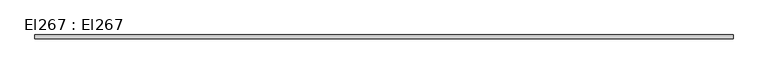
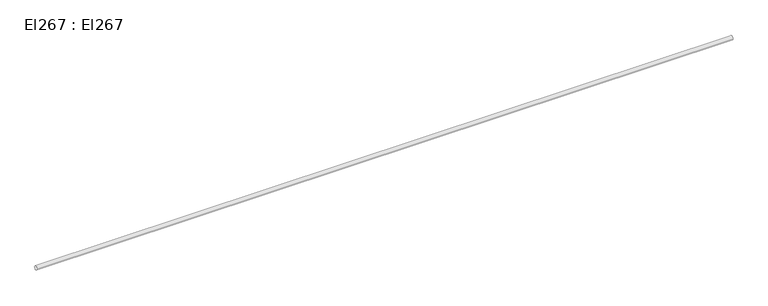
"""IFC4 building model written with IfcOpenShell, lengths in millimetres: cable carrier segment geometry, El267 : El267."""

from ifc_helpers import new_model, si_unit, point, frame, frame_2d, origin, place, context, project, spatial, circle_curve, trimmed, segment, composite_curve, outline, extrude, source, transform, mapped, element, save


def el267_el267_f19b0b8b(model_context):
    return source(origin(), model_context, "Body", "SweptSolid", [
        extrude(outline(composite_curve([segment(trimmed(circle_curve(frame_2d((28672.1, 2950.0)), 9.5), [point((28662.6, 2950.0))], [point((28681.6, 2950.0))], False, "CARTESIAN"), True, "CONTINUOUS"), segment(trimmed(circle_curve(frame_2d((28672.1, 2950.0)), 9.5), [point((28681.6, 2950.0))], [point((28662.6, 2950.0))], False, "CARTESIAN"), True, "CONTINUOUS")], self_intersect=False)), frame((9644.85, 0.0, 0.0), z_axis=(1.0, 0.0, 0.0), x_axis=(0.0, 1.0, 0.0)), (0.0, 0.0, 1.0), 3257.5),
    ])


if __name__ == "__main__":
    model = new_model("IFC4")
    model_context = context("Model", 3, world=origin())
    ifc_project = project(units=[si_unit("LENGTHUNIT", "METRE", prefix="MILLI")], contexts=[model_context])
    site = spatial("IfcSite", under=ifc_project)
    building = spatial("IfcBuilding", under=site)
    placement = place(None, origin())
    el267_el267_shape = el267_el267_f19b0b8b(model_context)
    element("IfcCableCarrierSegment", 1, ObjectType="El267 : El267", at=placement, inside=building, context=model_context, shape_type="MappedRepresentation", body=[
        mapped(el267_el267_shape, transform((0.0, 0.0, 0.0), x_axis=(1.0, 0.0, 0.0), y_axis=(0.0, 1.0, 0.0), z_axis=(0.0, 0.0, 1.0))),
    ])
    save(model, "model.ifc")
